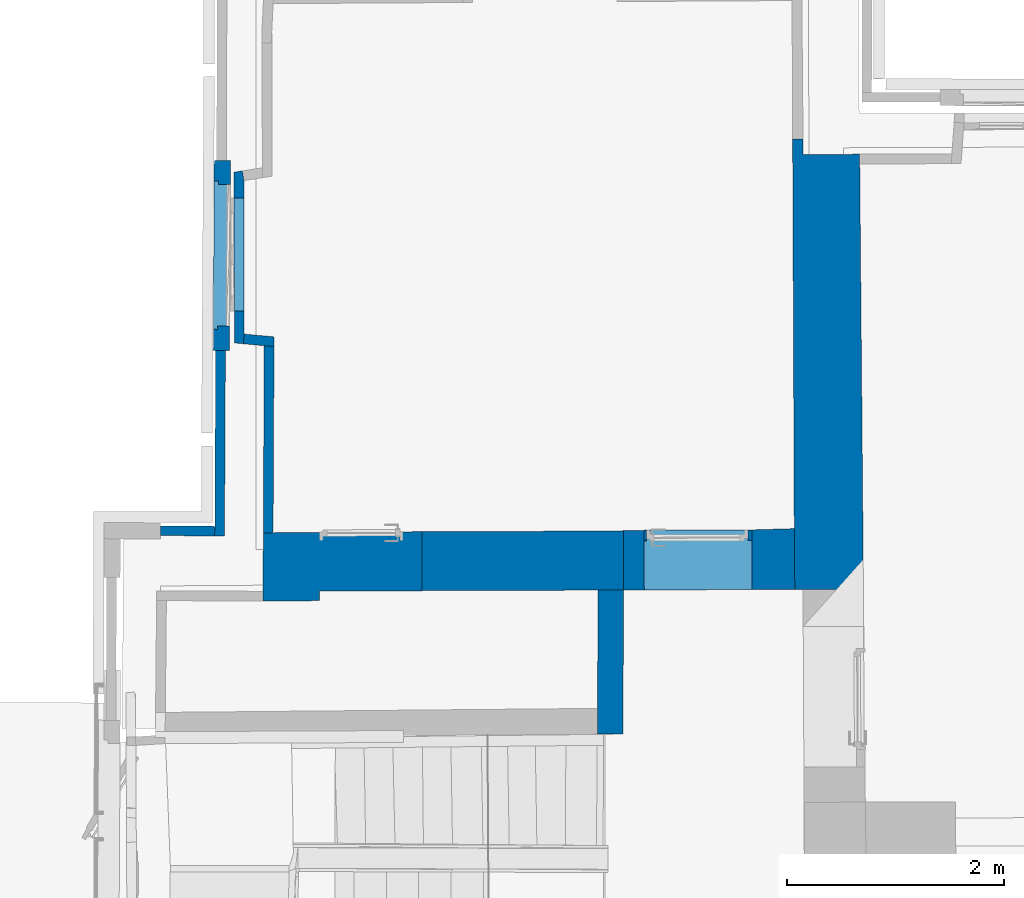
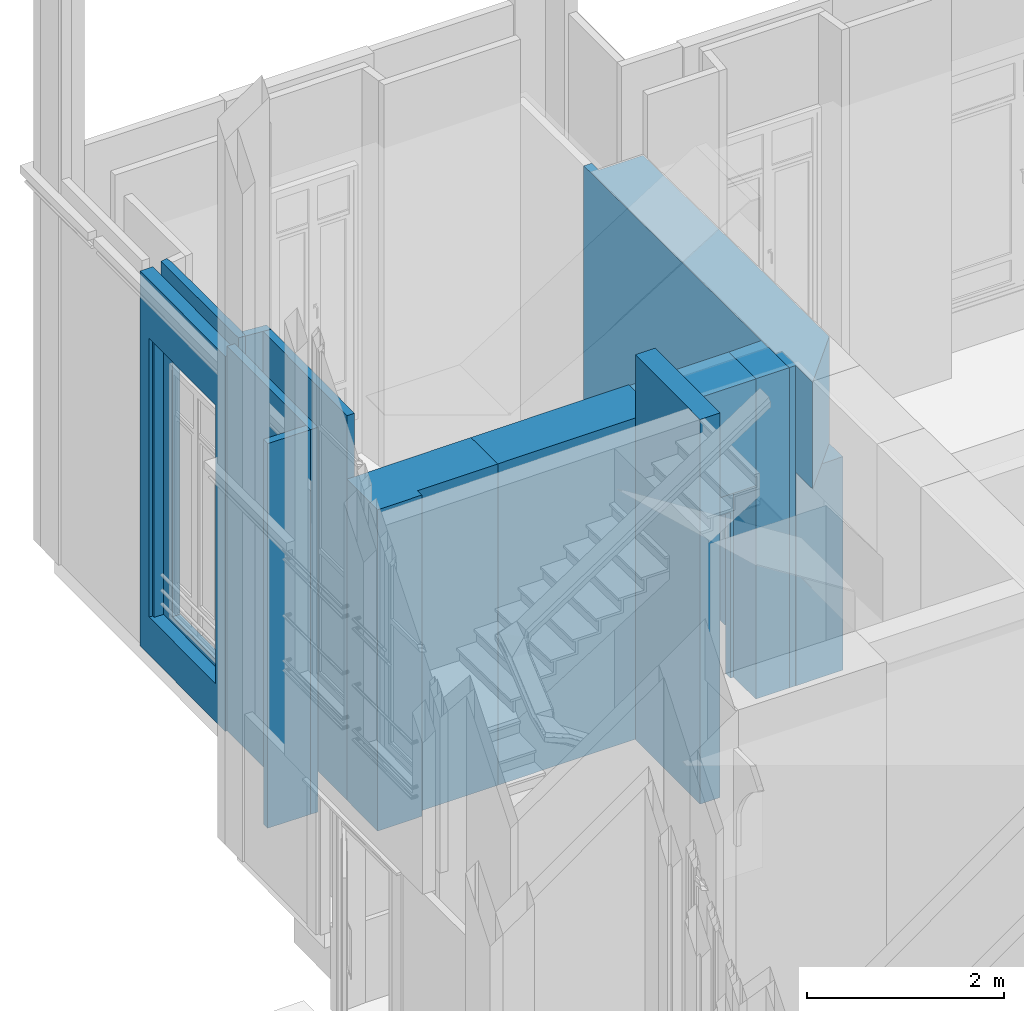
# One storey, part 11 of 97: 14 walls, 5 openings.
"""IFC2X3 building model written with IfcOpenShell, lengths in centimetres."""

from ifc_helpers import new_model, entity, si_unit, converted_unit, direction, frame, origin, origin_with_axes, origin_2d_with_axis, place, context, subcontext, project, spatial, polyline, rectangle, outline, extrude, clip, bounded_halfspace, faceted_brep, shape, material, layer, layer_set, layer_usage, type_object, element, save


model = new_model("IFC2X3")

# Units and contexts
model_context = context("Model", 3, precision=0.0001, world=origin(), true_north=direction((0.225632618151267, 0.974212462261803, 0.0)))
body_context = subcontext(model_context, "Body", "Model", "MODEL_VIEW")
footprint_context = subcontext(model_context, "FootPrint", "Model", "MODEL_VIEW")
profile_context = subcontext(model_context, "Profile", "Model", "MODEL_VIEW")
ifc_project = project(units=[si_unit("LENGTHUNIT", "METRE", prefix="CENTI"), si_unit("AREAUNIT", "SQUARE_METRE", prefix="CENTI"), si_unit("VOLUMEUNIT", "CUBIC_METRE", prefix="CENTI"), converted_unit("PLANEANGLEUNIT", "DEGREE", entity("IfcRatioMeasure", 0.0174532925), si_unit("PLANEANGLEUNIT", "RADIAN"), dimensions=[0, 0, 0, 0, 0, 0, 0])], contexts=[model_context])

# Site, building, storey
site_placement = place(None, origin_with_axes())
site = spatial("IfcSite", under=ifc_project, at=site_placement, Name="Default Site", CompositionType="ELEMENT")
building_placement = place(site_placement, origin_with_axes())
building = spatial("IfcBuilding", under=site, at=building_placement, Name="Default Building", CompositionType="ELEMENT")
storey_placement = place(building_placement, origin_with_axes())
storey = spatial("IfcBuildingStorey", under=building, at=storey_placement, Name="Rez-de-chaussée", CompositionType="ELEMENT", Elevation=0.0)

# Walls
ifc_material = material(Name="<aucun>")
ifc_layer_1 = layer(ifc_material, 9.0)
ifc_layer_set_1 = layer_set([ifc_layer_1], Name="default")
ifc_layer_usage_1 = layer_usage(ifc_layer_set_1, "AXIS2", "POSITIVE", -4.5)
wall_type_1 = type_object("IfcWallType", Name="default 90", PredefinedType="NOTDEFINED", material=ifc_layer_set_1)
wall_1_placement = place(storey_placement, frame((-1253.9984218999, 210.672900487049, 0.0128503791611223), z_axis=(0.0, 0.0, 1.0), x_axis=(0.0048785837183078, 0.999988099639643, 0.0)))
element("IfcWallStandardCase", 1, at=wall_1_placement, inside=storey, type_object=wall_type_1, material=ifc_layer_usage_1, Name="Enveloppe 371899", context=body_context, shape_type="Clipping", body=[
    clip(extrude(outline(polyline([(-9.00009469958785, 4.50000000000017), (-9.04138152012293, -4.50000000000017), (161.765611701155, -4.49999999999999), (161.765611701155, 4.49999999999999), (-9.00009469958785, 4.50000000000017)])), frame((0.0, 0.0, -2.71050543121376e-18), z_axis=(0.0, 0.0, 1.0), x_axis=(1.0, 0.0, 0.0)), (0.0, 0.0, 1.0), 477.795358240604), bounded_halfspace(frame((161.725152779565, 4.49999999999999, 465.782507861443), z_axis=(0.0, 0.0, 1.0), x_axis=(1.0, 1.50793353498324e-12, 0.0)), True, frame((161.725152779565, 4.49999999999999, 465.782507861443), z_axis=(0.0, 0.0, 1.0), x_axis=(1.0, 0.0, 0.0)), polyline([(-0.00483253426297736, -9.00000000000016), (4.44089209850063e-14, 0.0), (0.0404589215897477, 0.0), (0.0404589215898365, -8.99999999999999), (-0.00483253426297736, -9.00000000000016)]))),
])
ifc_layer_usage_2 = layer_usage(ifc_layer_set_1, "AXIS2", "POSITIVE", -4.5)
wall_2_placement = place(storey_placement, frame((-1258.3945514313, 206.193669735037, 0.0128503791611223), z_axis=(0.0, 0.0, 1.0), x_axis=(-0.999955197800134, 0.00946585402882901, 0.0)))
element("IfcWallStandardCase", 2, at=wall_2_placement, inside=storey, type_object=wall_type_1, material=ifc_layer_usage_2, Name="Enveloppe 372021", context=body_context, shape_type="SweptSolid", body=[
    extrude(outline(polyline([(49.9767524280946, 4.5000000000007), (0.105132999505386, 4.49999999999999), (0.1464198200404, -4.49999999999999), (49.9907239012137, -4.49976638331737), (49.9767524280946, 4.5000000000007)])), frame((0.0, 0.0, -2.71050543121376e-18), z_axis=(0.0, 0.0, 1.0), x_axis=(1.0, 0.0, 0.0)), (0.0, 0.0, 1.0), 477.795358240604),
])

# Wall, openings
ifc_layer_usage_3 = layer_usage(ifc_layer_set_1, "AXIS2", "POSITIVE", -4.5)
wall_3_placement = place(storey_placement, frame((-1235.89489625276, 383.681081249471, 0.0128503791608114), z_axis=(0.0, 0.0, 1.0), x_axis=(-0.00272817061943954, 0.999996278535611, 0.0)))
wall_3 = element("IfcWallStandardCase", 3, at=wall_3_placement, inside=storey, type_object=wall_type_1, material=ifc_layer_usage_3, Name="Enveloppe 668042", context=body_context, shape_type="SweptSolid", body=[
    extrude(outline(polyline([(153.053939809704, 4.49999999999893), (-4.16995399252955, 4.50000000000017), (-4.95028015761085, -3.64130513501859), (4.00866191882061, -4.49999999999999), (146.373623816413, -4.50000000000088), (154.252029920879, -3.28800236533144), (153.053939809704, 4.49999999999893)])), frame((0.0, 0.0, -5.42101086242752e-18), z_axis=(0.0, 0.0, 1.0), x_axis=(1.0, 0.0, 0.0)), (0.0, 0.0, 1.0), 477.795358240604),
])
opening_1_placement = place(wall_3_placement, frame((16.1122693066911, -2.27373675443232e-13, 0.0), z_axis=(0.0, 0.0, 1.0), x_axis=(-1.0, 4.64689051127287e-15, 0.0)))
cartesian_point_1 = entity("IfcCartesianPoint", [0.0, 0.0, 50.0])
cartesian_point_2 = entity("IfcCartesianPoint", [-122.0, -4.49999999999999])
element("IfcOpeningElement", 4, at=opening_1_placement, cuts=wall_3, Name="Baie 30045", ObjectType="Recess", shapes=[
    shape(body_context, "Body", "Brep", [faceted_brep([(1.09622209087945e-05, 24.5000024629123, -4.62607735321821e-10), (-122.000016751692, 24.5000024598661, -4.62607735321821e-10), (-122.000016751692, 24.5000024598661, 50.0000003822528), (1.09622209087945e-05, 24.5000024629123, 50.0000003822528), (1.09627452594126e-05, 3.50001586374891, 50.0000003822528), (1.09627452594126e-05, 3.50001586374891, -4.62607735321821e-10), (1.14003323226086e-05, 3.50001586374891, -4.62607735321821e-10), (-121.999992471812, 3.50002035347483, -4.62607735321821e-10), (-122.000016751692, 24.5000070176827, -4.62607735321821e-10), (-122.000016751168, 3.50002035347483, -4.62607735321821e-10), (-122.000016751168, 3.50002035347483, 50.0000003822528), (-122.000016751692, 24.5000070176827, 50.0000003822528), (-121.999992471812, 3.50002035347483, 50.0000003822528), (1.14003323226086e-05, 3.50001586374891, 50.0000003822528), (1.14003323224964e-05, 3.50002035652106, -4.62607735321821e-10), (1.14003323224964e-05, 3.50002035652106, 50.0000003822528)], [[[0, 1, 2, 3]], [[3, 4, 5, 0]], [[0, 6, 7, 8]], [[8, 9, 10, 11]], [[11, 12, 13, 3]], [[12, 7, 14, 15]]])]),
    shape(profile_context, "Profile", "GeometricCurveSet", [entity("IfcGeometricCurveSet", [entity("IfcPolyline", [cartesian_point_1, entity("IfcCartesianPoint", [0.0, 0.0, 0.0]), entity("IfcCartesianPoint", [-122.0, 0.0, 0.0]), entity("IfcCartesianPoint", [-122.0, 0.0, 50.0]), cartesian_point_1])])]),
    shape(footprint_context, "FootPrint", "GeometricCurveSet", [entity("IfcGeometricCurveSet", [entity("IfcPolyline", [cartesian_point_2, entity("IfcCartesianPoint", [0.0, -4.49999999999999]), entity("IfcCartesianPoint", [-8.88178419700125e-14, 4.49999999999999]), entity("IfcCartesianPoint", [-122.0, 4.50000000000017]), cartesian_point_2])])]),
])
opening_2_placement = place(wall_3_placement, frame((25.1095202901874, -2.27373675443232e-13, 50.7151902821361), z_axis=(0.0, 0.0, 1.0), x_axis=(-1.0, 4.64689051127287e-15, 0.0)))
cartesian_point_3 = entity("IfcCartesianPoint", [-8.88178419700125e-14, 0.0, 316.0])
cartesian_point_4 = entity("IfcCartesianPoint", [-104.0, -4.49999999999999])
element("IfcOpeningElement", 5, at=opening_2_placement, cuts=wall_3, Name="4294966454_11", ObjectType="Opening", shapes=[
    shape(body_context, "Body", "SweptSolid", [extrude(outline(polyline([(8.88178419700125e-14, 316.0), (8.88178419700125e-14, 1.11022302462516e-14), (104.0, 1.11022302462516e-14), (104.0, 316.0), (8.88178419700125e-14, 316.0)])), frame((0.0, -14.5, 0.0), z_axis=(0.0, 1.0, 0.0), x_axis=(-1.0, 0.0, 0.0)), (0.0, 0.0, 1.0), 29.0)]),
    shape(profile_context, "Profile", "GeometricCurveSet", [entity("IfcGeometricCurveSet", [entity("IfcPolyline", [cartesian_point_3, entity("IfcCartesianPoint", [-8.88178419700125e-14, 0.0, 1.11022302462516e-14]), entity("IfcCartesianPoint", [-104.0, -1.77635683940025e-13, 1.11022302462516e-14]), entity("IfcCartesianPoint", [-104.0, -1.77635683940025e-13, 316.0]), cartesian_point_3])])]),
    shape(footprint_context, "FootPrint", "GeometricCurveSet", [entity("IfcGeometricCurveSet", [entity("IfcPolyline", [cartesian_point_4, entity("IfcCartesianPoint", [-8.88178419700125e-14, -4.49999999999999]), entity("IfcCartesianPoint", [0.0, 4.49999999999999]), entity("IfcCartesianPoint", [-104.0, 4.49999999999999]), cartesian_point_4])])]),
])

# Walls
ifc_layer_usage_4 = layer_usage(ifc_layer_set_1, "AXIS2", "POSITIVE", -4.5)
wall_4_placement = place(storey_placement, frame((-1204.3390015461, 380.662751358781, 0.0128503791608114), z_axis=(0.0, 0.0, 1.0), x_axis=(-0.99569460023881, 0.0926944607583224, 0.0)))
element("IfcWallStandardCase", 6, at=wall_4_placement, inside=storey, type_object=wall_type_1, material=ifc_layer_usage_4, Name="Enveloppe 667678", context=body_context, shape_type="SweptSolid", body=[
    extrude(outline(polyline([(27.6028139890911, 4.50000000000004), (-0.796880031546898, 4.49999999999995), (-0.00189977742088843, -4.49999999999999), (27.6028139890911, -4.49999999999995), (27.6028139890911, 4.50000000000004)])), origin_with_axes(), (0.0, 0.0, 1.0), 477.795358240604),
])
ifc_layer_usage_5 = layer_usage(ifc_layer_set_1, "AXIS2", "POSITIVE", -4.5)
wall_5_placement = place(storey_placement, frame((-1209.2725205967, 204.733562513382, 0.0128503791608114), z_axis=(0.0, 0.0, 1.0), x_axis=(0.00472522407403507, 0.999988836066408, 0.0)))
element("IfcWallStandardCase", 7, at=wall_5_placement, inside=storey, type_object=wall_type_1, material=ifc_layer_usage_5, Name="Enveloppe 667856", context=body_context, shape_type="Clipping", body=[
    clip(extrude(outline(polyline([(-0.10796260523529, 4.50003008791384), (1.11022302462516e-13, -4.49999999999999), (171.397873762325, -4.49999999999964), (172.192854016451, 4.50000000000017), (-0.10796260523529, 4.50003008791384)])), origin_with_axes(), (0.0, 0.0, 1.0), 477.795358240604), bounded_halfspace(frame((-0.10796260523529, 4.50003008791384, 399.097180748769), z_axis=(0.0, 0.0, -1.0), x_axis=(0.0119949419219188, -0.999928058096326, 0.0)), True, frame((-0.10796260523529, 4.50003008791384, 399.097180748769), z_axis=(0.0, 0.0, 1.0), x_axis=(1.0, 0.0, 0.0)), polyline([(0.0, 1.77635683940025e-13), (0.107962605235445, -9.00003008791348), (0.107962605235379, -3.00879133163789e-05), (0.0, 1.77635683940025e-13)]))),
])

# Wall, opening
ifc_layer_2 = layer(ifc_material, 10.0)
ifc_layer_set_2 = layer_set([ifc_layer_2], Name="default")
ifc_layer_usage_6 = layer_usage(ifc_layer_set_2, "AXIS2", "POSITIVE", -5.0)
wall_type_2 = type_object("IfcWallType", Name="default 100", PredefinedType="NOTDEFINED", material=ifc_layer_set_2)
wall_6_placement = place(storey_placement, frame((-863.422753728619, 202.015661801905, 0.0128503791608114), z_axis=(0.0, 0.0, 1.0), x_axis=(0.999993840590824, 0.00350981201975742, 0.0)))
wall_6 = element("IfcWallStandardCase", 8, at=wall_6_placement, inside=storey, type_object=wall_type_2, material=ifc_layer_usage_6, Name="Enveloppe 29281", context=body_context, shape_type="SweptSolid", body=[
    extrude(rectangle(XDim=99.2154726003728, YDim=10.0000000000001, at=origin_2d_with_axis()), frame((49.8694196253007, 1.33226762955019e-13, 0.0), z_axis=(0.0, 0.0, 1.0), x_axis=(1.0, 4.12083561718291e-15, 0.0)), (0.0, 0.0, 1.0), 264.987149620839),
])
opening_3_placement = place(wall_6_placement, frame((2.51083119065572, 2.8421709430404e-14, 8.88178419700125e-14), z_axis=(0.0, 0.0, 1.0), x_axis=(-1.0, -4.07746753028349e-15, 0.0)))
cartesian_point_5 = entity("IfcCartesianPoint", [0.0, 4.44089209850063e-14, 206.0])
cartesian_point_6 = entity("IfcCartesianPoint", [-93.2467446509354, -4.99999999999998])
element("IfcOpeningElement", 9, at=opening_3_placement, cuts=wall_6, Name="4294966348_11", ObjectType="Opening", shapes=[
    shape(body_context, "Body", "SweptSolid", [extrude(outline(polyline([(0.0, 206.0), (0.0, -2.71050543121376e-18), (93.2467446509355, -2.71050543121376e-18), (93.2467446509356, 206.0), (0.0, 206.0)])), frame((0.0, -15.0, 0.0), z_axis=(0.0, 1.0, 0.0), x_axis=(-1.0, 0.0, 0.0)), (0.0, 0.0, 1.0), 30.0000000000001)]),
    shape(profile_context, "Profile", "GeometricCurveSet", [entity("IfcGeometricCurveSet", [entity("IfcPolyline", [cartesian_point_5, entity("IfcCartesianPoint", [0.0, 4.44089209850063e-14, -2.71050543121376e-18]), entity("IfcCartesianPoint", [-93.2467446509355, 0.0, -2.71050543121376e-18]), entity("IfcCartesianPoint", [-93.2467446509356, 0.0, 206.0]), cartesian_point_5])])]),
    shape(footprint_context, "FootPrint", "GeometricCurveSet", [entity("IfcGeometricCurveSet", [entity("IfcPolyline", [cartesian_point_6, entity("IfcCartesianPoint", [1.77635683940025e-13, -4.99999999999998]), entity("IfcCartesianPoint", [5.32907051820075e-13, 5.00000000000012]), entity("IfcCartesianPoint", [-93.2467446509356, 5.00000000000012]), cartesian_point_6])])]),
])

ifc_layer_3 = layer(ifc_material, 15.0)
ifc_layer_set_3 = layer_set([ifc_layer_3], Name="default")
ifc_layer_usage_7 = layer_usage(ifc_layer_set_3, "AXIS2", "POSITIVE", -7.5)
wall_type_3 = type_object("IfcWallType", Name="default 150", PredefinedType="NOTDEFINED", material=ifc_layer_set_3)
wall_7_placement = place(storey_placement, frame((-1252.41010998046, 372.389383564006, 0.0128503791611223), z_axis=(0.0, 0.0, 1.0), x_axis=(0.00541552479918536, 0.999985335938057, 0.0)))
wall_7 = element("IfcWallStandardCase", 10, at=wall_7_placement, inside=storey, type_object=wall_type_3, material=ifc_layer_usage_7, Name="Enveloppe 374253", context=body_context, shape_type="SweptSolid", body=[
    extrude(rectangle(XDim=174.961530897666, YDim=14.9999999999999, at=origin_2d_with_axis()), frame((87.4807654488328, -3.5527136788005e-13, 0.0), z_axis=(0.0, 0.0, 1.0), x_axis=(1.0, -2.86316109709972e-15, 0.0)), (0.0, 0.0, 1.0), 465.782507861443),
])
opening_4_placement = place(wall_7_placement, frame((19.7036169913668, 0.0, 47.1786691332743), z_axis=(0.0, 0.0, 1.0), x_axis=(1.0, -2.86316109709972e-15, 0.0)))
cartesian_point_7 = entity("IfcCartesianPoint", [0.0, 0.0, 345.87299773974])
cartesian_point_8 = entity("IfcCartesianPoint", [136.460216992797, 7.49999999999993])
element("IfcOpeningElement", 11, at=opening_4_placement, cuts=wall_7, Name="Baie 379597", ObjectType="Opening", shapes=[
    shape(body_context, "Body", "Brep", [faceted_brep([(6.36830286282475e-06, 27.499988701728, 345.87300323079), (136.460237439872, 27.4999886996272, 345.87300323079), (136.460237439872, 27.4999886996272, -9.67284635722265e-07), (6.36830286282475e-06, 27.499988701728, -9.67284635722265e-07), (2.99999750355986, -27.5000398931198, -9.67284635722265e-07), (133.46019385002, -27.5000398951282, -9.67284635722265e-07), (133.46019385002, -27.5000398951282, 345.87300323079), (2.99999750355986, -27.5000398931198, 345.87300323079), (2.99999750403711, 3.49997988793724, 345.87300323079), (2.99999750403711, 3.49997988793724, -9.67284635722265e-07), (3.00001049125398, 3.49997988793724, -9.67284635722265e-07), (3.00001049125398, 3.49997988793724, 345.87300323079), (-7.12953309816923e-06, 3.49997988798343, 345.87300323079), (-7.12953309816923e-06, 3.49997988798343, -9.67284635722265e-07), (-7.12953309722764e-06, 3.50004104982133, -9.67284635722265e-07), (-7.12953309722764e-06, 3.50004104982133, 345.87300323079), (-7.12916361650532e-06, 27.499988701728, 345.87300323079), (-7.12916361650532e-06, 27.499988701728, -9.67284635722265e-07), (133.46019385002, -27.5000113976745, -9.67284635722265e-07), (136.460237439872, 27.4999902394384, -9.67284635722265e-07), (136.460223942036, 3.50004258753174, -9.67284635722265e-07), (133.460206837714, 3.50000838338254, -9.67284635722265e-07), (133.46019385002, -27.5000113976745, 345.87300323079), (133.460193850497, 3.50000838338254, -9.67284635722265e-07), (133.460193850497, 3.50000838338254, 345.87300323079), (133.460206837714, 3.50000838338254, 345.87300323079), (136.460223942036, 3.50000838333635, -9.67284635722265e-07), (136.460223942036, 3.50000838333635, 345.87300323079), (136.460223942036, 3.50004258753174, 345.87300323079), (136.460223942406, 27.4999902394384, -9.67284635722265e-07), (136.460223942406, 27.4999902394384, 345.87300323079), (136.460237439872, 27.4999902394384, 345.87300323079)], [[[0, 1, 2, 3]], [[4, 5, 6, 7]], [[4, 7, 8, 9]], [[10, 11, 12, 13]], [[14, 15, 16, 17]], [[18, 4, 10, 14, 3, 19, 20, 21]], [[22, 18, 23, 24]], [[25, 21, 26, 27]], [[28, 20, 29, 30]], [[25, 28, 31, 0, 15, 11, 7, 22]]])]),
    shape(profile_context, "Profile", "GeometricCurveSet", [entity("IfcGeometricCurveSet", [entity("IfcPolyline", [cartesian_point_7, entity("IfcCartesianPoint", [0.0, 0.0, -5.55111512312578e-15]), entity("IfcCartesianPoint", [136.460216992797, 0.0, -5.55111512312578e-15]), entity("IfcCartesianPoint", [136.460216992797, 0.0, 345.87299773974]), cartesian_point_7])])]),
    shape(footprint_context, "FootPrint", "GeometricCurveSet", [entity("IfcGeometricCurveSet", [entity("IfcPolyline", [cartesian_point_8, entity("IfcCartesianPoint", [0.0, 7.49999999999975]), entity("IfcCartesianPoint", [4.44089209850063e-14, -7.49999999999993]), entity("IfcCartesianPoint", [136.460216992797, -7.49999999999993]), cartesian_point_8])])]),
])

# Walls
ifc_layer_4 = layer(ifc_material, 54.4)
ifc_layer_set_4 = layer_set([ifc_layer_4], Name="default")
ifc_layer_usage_8 = layer_usage(ifc_layer_set_4, "AXIS2", "POSITIVE", -27.2)
wall_type_4 = type_object("IfcWallType", Name="default 544", PredefinedType="NOTDEFINED", material=ifc_layer_set_4)
wall_8_placement = place(storey_placement, frame((-905.63070822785, 179.077689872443, 0.0128503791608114), z_axis=(0.0, 0.0, 1.0), x_axis=(0.999993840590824, 0.0035098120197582, 0.0)))
element("IfcWallStandardCase", 12, at=wall_8_placement, inside=storey, type_object=wall_type_4, material=ifc_layer_usage_8, Name="Enveloppe 28084", context=body_context, shape_type="Clipping", body=[
    clip(extrude(outline(polyline([(11.926769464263, 27.2000000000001), (23.5007195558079, 27.2000000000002), (23.5007195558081, -27.1999999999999), (42.5498858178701, -27.1999999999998), (42.5498842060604, 27.7892294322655), (11.926769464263, 27.2000000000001)])), origin_with_axes(), (0.0, 0.0, 1.0), 397.695358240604), bounded_halfspace(frame((42.5498858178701, 27.7896886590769, 264.987149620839), z_axis=(0.0, 0.0, -1.0), x_axis=(-1.0, -5.7595855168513e-13, 0.0)), True, frame((42.5498858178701, 27.7896886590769, 264.987149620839), z_axis=(0.0, 0.0, 1.0), x_axis=(1.0, 0.0, 0.0)), polyline([(-0.130841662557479, -54.9896886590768), (-1.77635683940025e-13, -54.9896886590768), (-1.77635683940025e-13, 0.0), (-0.130841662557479, -8.88178419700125e-14), (-0.130841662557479, -54.9896886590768)]))),
])
ifc_layer_usage_9 = layer_usage(ifc_layer_set_4, "AXIS2", "POSITIVE", -27.2)
wall_9_placement = place(storey_placement, frame((-763.866223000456, 179.575259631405, 0.0128503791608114), z_axis=(0.0, 0.0, 1.0), x_axis=(0.999993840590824, 0.00350981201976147, 0.0)))
element("IfcWallStandardCase", 13, at=wall_9_placement, inside=storey, type_object=wall_type_4, material=ifc_layer_usage_9, Name="Enveloppe 2511", context=body_context, shape_type="Clipping", body=[
    clip(extrude(outline(polyline([(1.77635683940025e-13, 27.7896886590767), (8.88178419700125e-14, -27.2), (39.4488222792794, -27.2), (39.1570551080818, 28.8038641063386), (1.77635683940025e-13, 27.7896886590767)])), origin_with_axes(), (0.0, 0.0, 1.0), 397.695358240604), bounded_halfspace(frame((0.0, -27.2, 264.987149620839), z_axis=(0.0, 0.0, -1.0), x_axis=(1.0, -4.25983033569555e-14, 0.0)), True, frame((0.0, -27.2, 264.987149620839), z_axis=(0.0, 0.0, 1.0), x_axis=(1.0, 0.0, 0.0)), polyline([(-8.88178419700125e-14, 0.0), (0.398118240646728, -2.22044604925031e-14), (0.398118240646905, 55.0), (0.0, 54.9896886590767), (-8.88178419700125e-14, 0.0)]))),
])

# Wall, opening
ifc_layer_usage_10 = layer_usage(ifc_layer_set_4, "AXIS2", "POSITIVE", -27.2)
wall_10_placement = place(storey_placement, frame((-1162.01479760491, 178.177824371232, 0.0128503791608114), z_axis=(0.0, 0.0, 1.0), x_axis=(0.999993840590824, 0.0035098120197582, 0.0)))
wall_10 = element("IfcWallStandardCase", 14, at=wall_10_placement, inside=storey, type_object=wall_type_4, material=ifc_layer_usage_10, Name="Enveloppe 2536", context=body_context, shape_type="Clipping", body=[
    clip(extrude(outline(polyline([(94.4610185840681, 27.2000000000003), (94.4610185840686, -27.1999999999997), (279.886388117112, -27.1999999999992), (280.31209976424, 27.2000000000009), (94.4610185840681, 27.2000000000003)])), origin_with_axes(), (0.0, 0.0, 1.0), 399.097180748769), bounded_halfspace(frame((280.31209976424, 27.2000000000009, 397.695358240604), z_axis=(0.0, 0.0, 1.0), x_axis=(-0.00782534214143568, -0.99996938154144, 0.0)), True, frame((280.31209976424, 27.2000000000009, 397.695358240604), z_axis=(0.0, 0.0, 1.0), x_axis=(1.0, 0.0, 0.0)), polyline([(-0.425711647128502, -54.4000000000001), (-0.425711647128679, 4.44089209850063e-14), (0.0, 4.44089209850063e-14), (-0.425711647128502, -54.4000000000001)]))),
])
opening_5_placement = place(wall_10_placement, frame((0.116217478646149, -2.8421709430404e-14, -1.73472347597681e-18), z_axis=(0.0, 0.0, 1.0), x_axis=(1.0, 3.08433834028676e-15, 0.0)))
cartesian_point_9 = entity("IfcCartesianPoint", [0.0, 2.22044604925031e-14, 211.0])
cartesian_point_10 = entity("IfcCartesianPoint", [77.0, 27.2])
element("IfcOpeningElement", 15, at=opening_5_placement, cuts=wall_10, Name="4294966353_11", ObjectType="Opening", shapes=[
    shape(body_context, "Body", "SweptSolid", [extrude(outline(polyline([(0.0, 211.0), (0.0, 0.0), (77.0, 0.0), (77.0, 211.0), (0.0, 211.0)])), frame((0.0, 37.2, 0.0), z_axis=(0.0, -1.0, 0.0), x_axis=(1.0, 0.0, 0.0)), (0.0, 0.0, 1.0), 74.4)]),
    shape(profile_context, "Profile", "GeometricCurveSet", [entity("IfcGeometricCurveSet", [entity("IfcPolyline", [cartesian_point_9, entity("IfcCartesianPoint", [0.0, 2.22044604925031e-14, 0.0]), entity("IfcCartesianPoint", [77.0, 4.44089209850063e-14, 0.0]), entity("IfcCartesianPoint", [77.0, 4.44089209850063e-14, 211.0]), cartesian_point_9])])]),
    shape(footprint_context, "FootPrint", "GeometricCurveSet", [entity("IfcGeometricCurveSet", [entity("IfcPolyline", [cartesian_point_10, entity("IfcCartesianPoint", [0.0, 27.2]), entity("IfcCartesianPoint", [-1.77635683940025e-13, -27.2]), entity("IfcCartesianPoint", [76.9999999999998, -27.2]), cartesian_point_10])])]),
])

# Walls
ifc_layer_5 = layer(ifc_material, 55.0)
ifc_layer_set_5 = layer_set([ifc_layer_5], Name="default")
ifc_layer_usage_11 = layer_usage(ifc_layer_set_5, "AXIS2", "POSITIVE", -27.5)
wall_type_5 = type_object("IfcWallType", Name="default 550", PredefinedType="NOTDEFINED", material=ifc_layer_set_5)
wall_11_placement = place(storey_placement, frame((-863.343819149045, 179.526111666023, 265.0), z_axis=(0.0, 0.0, 1.0), x_axis=(0.999993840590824, 0.00350981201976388, 0.0)))
element("IfcWallStandardCase", 16, at=wall_11_placement, inside=storey, type_object=wall_type_5, material=ifc_layer_usage_11, Name="Enveloppe 28083", context=body_context, shape_type="SweptSolid", body=[
    extrude(rectangle(XDim=99.7444276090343, YDim=54.9999998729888, at=origin_2d_with_axis()), frame((50.0030735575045, -0.000698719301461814, 1.33226762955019e-13), z_axis=(0.0, 0.0, 1.0), x_axis=(0.999999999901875, -1.40089187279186e-05, 0.0)), (0.0, 0.0, 1.0), 132.708208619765),
])
ifc_layer_6 = layer(ifc_material, 62.8688354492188)
ifc_layer_set_6 = layer_set([ifc_layer_6], Name="default")
ifc_layer_usage_12 = layer_usage(ifc_layer_set_6, "AXIS2", "POSITIVE", -31.434)
wall_type_6 = type_object("IfcWallType", Name="default 628.688354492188", PredefinedType="NOTDEFINED", material=ifc_layer_set_6)
wall_12_placement = place(storey_placement, frame((-1227.97559983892, 173.108361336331, 0.0128503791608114), z_axis=(0.0, 0.0, 1.0), x_axis=(0.999973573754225, 0.00726992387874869, 0.0)))
element("IfcWallStandardCase", 17, at=wall_12_placement, inside=storey, type_object=wall_type_6, material=ifc_layer_usage_12, Name="Enveloppe 6013", context=body_context, shape_type="SweptSolid", body=[
    extrude(outline(polyline([(13.5748600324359, -31.433673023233), (65.8932849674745, -31.434418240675), (65.8932849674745, -22.6100073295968), (160.353988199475, -22.9651971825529), (160.55854089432, 31.4344182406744), (14.4314964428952, 31.4344182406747), (13.7702758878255, -22.4348807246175), (13.6853231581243, -22.434263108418), (13.5748600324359, -31.433673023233)])), origin_with_axes(), (0.0, 0.0, 1.0), 399.097180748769),
])
ifc_layer_7 = layer(ifc_material, 23.5)
ifc_layer_set_7 = layer_set([ifc_layer_7], Name="default")
ifc_layer_usage_13 = layer_usage(ifc_layer_set_7, "AXIS2", "POSITIVE", -11.75)
wall_type_7 = type_object("IfcWallType", Name="default 235", PredefinedType="NOTDEFINED", material=ifc_layer_set_7)
wall_13_placement = place(storey_placement, frame((-894.35678822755, 19.4160007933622, 0.0128503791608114), z_axis=(0.0, 0.0, 1.0), x_axis=(0.00431558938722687, 0.999990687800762, 0.0)))
element("IfcWallStandardCase", 18, at=wall_13_placement, inside=storey, type_object=wall_type_7, material=ifc_layer_usage_13, Name="Enveloppe 2494", context=body_context, shape_type="Clipping", body=[
    clip(extrude(outline(polyline([(-0.276897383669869, 11.7500000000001), (-0.00352706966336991, -11.75), (132.596282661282, -11.7500000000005), (132.412381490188, 11.7499999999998), (-0.276897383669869, 11.7500000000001)])), origin_with_axes(), (0.0, 0.0, 1.0), 477.795358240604), bounded_halfspace(frame((132.412381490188, 11.7499999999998, 399.097180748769), z_axis=(0.0, 0.0, -1.0), x_axis=(2.6628005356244e-15, -1.0, 0.0)), True, frame((132.412381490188, 11.7499999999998, 399.097180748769), z_axis=(0.0, 0.0, 1.0), x_axis=(1.0, 0.0, 0.0)), polyline([(8.88178419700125e-14, -23.5000000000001), (0.183901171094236, -23.5000000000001), (0.0, 1.77635683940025e-13), (8.88178419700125e-14, -23.5000000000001)]))),
])
ifc_layer_8 = layer(ifc_material, 61.0)
ifc_layer_set_8 = layer_set([ifc_layer_8], Name="default")
ifc_layer_usage_14 = layer_usage(ifc_layer_set_8, "AXIS2", "POSITIVE", -30.5)
wall_type_8 = type_object("IfcWallType", Name="default 610", PredefinedType="NOTDEFINED", material=ifc_layer_set_8)
wall_14_placement = place(storey_placement, frame((-691.891110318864, 179.827880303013, 0.0128503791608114), z_axis=(0.0, 0.0, 1.0), x_axis=(-0.00871943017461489, 0.999961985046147, 0.0)))
element("IfcWallStandardCase", 19, at=wall_14_placement, inside=storey, type_object=wall_type_8, material=ifc_layer_usage_14, Name="Enveloppe 2661", context=body_context, shape_type="Clipping", body=[
    clip(clip(clip(extrude(outline(polyline([(387.66379348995, 31.0652848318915), (28.9744476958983, 32.6679961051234), (-27.030176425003, 32.6679961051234), (-27.0695310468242, 25.113990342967), (-61.4071513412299, 25.2562352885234), (-27.359267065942, -5.65843515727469), (-27.3594832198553, -30.4999981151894), (373.223983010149, -30.4999999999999), (373.484828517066, 21.571028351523), (387.663793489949, 21.5), (387.66379348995, 31.0652848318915)])), frame((0.0, 0.0, -2.71050543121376e-18), z_axis=(0.0, 0.0, 1.0), x_axis=(1.0, 0.0, 0.0)), (0.0, 0.0, 1.0), 397.695358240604), bounded_halfspace(frame((-27.359267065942, -5.65843515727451, 264.987149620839), z_axis=(0.0, 0.0, 1.0), x_axis=(-0.740350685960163, 0.672220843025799, 0.0)), True, frame((-27.359267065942, -5.65843515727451, 264.987149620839), z_axis=(0.0, 0.0, 1.0), x_axis=(1.0, 0.0, 0.0)), polyline([(-34.0478842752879, 30.9146704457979), (2.22044604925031e-14, 30.7736257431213), (0.0, 0.0), (-34.0478842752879, 30.9146704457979)]))), bounded_halfspace(frame((-27.359267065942, -5.65843515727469, 264.987149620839), z_axis=(0.0, 0.0, -1.0), x_axis=(-1.2038980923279e-15, -1.0, 0.0)), True, frame((-27.359267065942, -5.65843515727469, 264.987149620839), z_axis=(0.0, 0.0, 1.0), x_axis=(1.0, 0.0, 0.0)), polyline([(-6.66133814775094e-14, -24.8167739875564), (6.42720331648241, -24.8415648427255), (27.3592670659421, -24.8415648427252), (-2.22044604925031e-14, 0.0), (-6.66133814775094e-14, -24.8167739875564)]))), bounded_halfspace(frame((-20.9320637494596, -30.5000000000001, 264.987149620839), z_axis=(0.0, 0.0, -1.0), x_axis=(-0.999992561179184, 0.00385714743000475, 0.0)), True, frame((-20.9320637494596, -30.5000000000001, 264.987149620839), z_axis=(0.0, 0.0, 1.0), x_axis=(1.0, 0.0, 0.0)), polyline([(-6.42720331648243, 8.88178419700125e-14), (0.0, -8.88178419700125e-14), (-6.42720331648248, 0.0247908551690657), (-6.42720331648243, 8.88178419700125e-14)]))),
])

save(model, "model.ifc")
